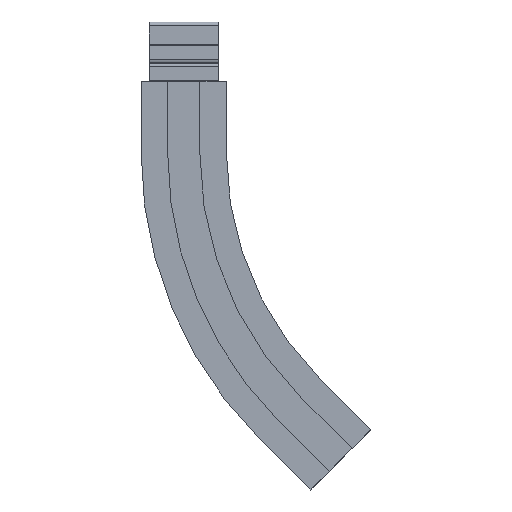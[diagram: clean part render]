
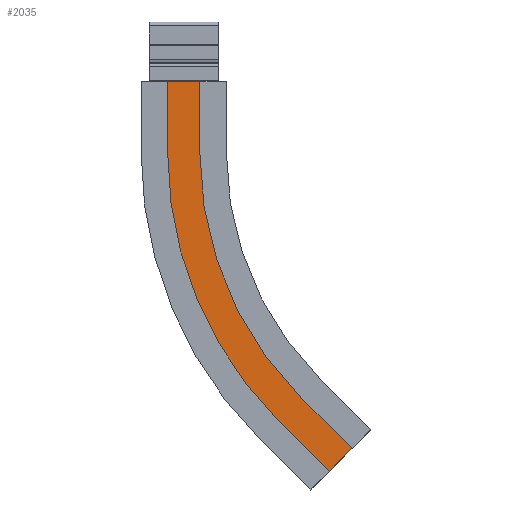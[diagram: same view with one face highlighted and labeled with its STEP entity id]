
A CAD part, front view. The second image highlights one B-rep face of the part: STEP entity #2035.
In plain terms, the highlighted planar face has unit normal (0, -1, 0).
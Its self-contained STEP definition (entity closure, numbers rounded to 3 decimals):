
#582 = VECTOR ( 'NONE', #10221, 1000. ) ;
#583 = LINE ( 'NONE', #10220, #582 ) ;
#592 = CIRCLE ( 'NONE', #13941, 466. ) ;
#598 = VECTOR ( 'NONE', #10201, 1000. ) ;
#599 = LINE ( 'NONE', #10200, #598 ) ;
#759 = VECTOR ( 'NONE', #9994, 1000. ) ;
#760 = LINE ( 'NONE', #9993, #759 ) ;
#761 = VECTOR ( 'NONE', #9992, 1000. ) ;
#762 = LINE ( 'NONE', #9991, #761 ) ;
#763 = VECTOR ( 'NONE', #9990, 1000. ) ;
#764 = CIRCLE ( 'NONE', #13919, 534. ) ;
#765 = LINE ( 'NONE', #9989, #763 ) ;
#766 = VECTOR ( 'NONE', #9985, 1000. ) ;
#767 = LINE ( 'NONE', #9984, #766 ) ;
#1321 = CARTESIAN_POINT ( 'NONE',  ( -12.689, -43.722, -182.56 ) ) ;
#1329 = CARTESIAN_POINT ( 'NONE',  ( 58.022, -43.722, -253.27 ) ) ;
#1342 = CARTESIAN_POINT ( 'NONE',  ( 106.105, -43.722, -205.187 ) ) ;
#1615 = CARTESIAN_POINT ( 'NONE',  ( -101.094, -43.722, 295.035 ) ) ;
#1624 = CARTESIAN_POINT ( 'NONE',  ( -101.094, -43.722, 195.035 ) ) ;
#1626 = CARTESIAN_POINT ( 'NONE',  ( 35.395, -43.722, -134.476 ) ) ;
#1630 = CARTESIAN_POINT ( 'NONE',  ( -169.094, -43.722, 295.035 ) ) ;
#1635 = CARTESIAN_POINT ( 'NONE',  ( -169.094, -43.722, 195.035 ) ) ;
#2035 = ADVANCED_FACE ( 'NONE', ( #6316 ), #4888, .T. ) ;
#4884 = DIRECTION ( 'NONE',  ( -0.707, 0., -0.707 ) ) ;
#4886 = DIRECTION ( 'NONE',  ( 0., -1., 0. ) ) ;
#4887 = CARTESIAN_POINT ( 'NONE',  ( 35.395, -43.722, -134.476 ) ) ;
#4888 = PLANE ( 'NONE',  #14457 ) ;
#6316 = FACE_OUTER_BOUND ( 'NONE', #9075, .T. ) ;
#9075 = EDGE_LOOP ( 'NONE', ( #15055, #15056, #15057, #15058, #15059, #15060, #15061, #15062 ) ) ;
#9984 = CARTESIAN_POINT ( 'NONE',  ( -12.689, -43.722, -182.56 ) ) ;
#9985 = DIRECTION ( 'NONE',  ( 0.707, 0., -0.707 ) ) ;
#9986 = CARTESIAN_POINT ( 'NONE',  ( 364.906, -43.722, 195.035 ) ) ;
#9987 = DIRECTION ( 'NONE',  ( 0., 1., 0. ) ) ;
#9988 = DIRECTION ( 'NONE',  ( -0.707, 0., 0.707 ) ) ;
#9989 = CARTESIAN_POINT ( 'NONE',  ( -101.094, -43.722, 295.035 ) ) ;
#9990 = DIRECTION ( 'NONE',  ( -1., 0., 0. ) ) ;
#9991 = CARTESIAN_POINT ( 'NONE',  ( 106.105, -43.722, -205.187 ) ) ;
#9992 = DIRECTION ( 'NONE',  ( -0.707, 0., -0.707 ) ) ;
#9993 = CARTESIAN_POINT ( 'NONE',  ( 35.395, -43.722, -134.476 ) ) ;
#9994 = DIRECTION ( 'NONE',  ( 0.707, 0., -0.707 ) ) ;
#10200 = CARTESIAN_POINT ( 'NONE',  ( -101.094, -43.722, 195.035 ) ) ;
#10201 = DIRECTION ( 'NONE',  ( 0., 0., 1. ) ) ;
#10206 = CARTESIAN_POINT ( 'NONE',  ( 364.906, -43.722, 195.035 ) ) ;
#10207 = DIRECTION ( 'NONE',  ( 0., 1., 0. ) ) ;
#10208 = DIRECTION ( 'NONE',  ( -0.707, 0., 0.707 ) ) ;
#10220 = CARTESIAN_POINT ( 'NONE',  ( -169.094, -43.722, 195.035 ) ) ;
#10221 = DIRECTION ( 'NONE',  ( 0., 0., 1. ) ) ;
#11637 = VERTEX_POINT ( 'NONE', #1635 ) ;
#11642 = VERTEX_POINT ( 'NONE', #1630 ) ;
#11646 = VERTEX_POINT ( 'NONE', #1626 ) ;
#11648 = VERTEX_POINT ( 'NONE', #1624 ) ;
#11657 = VERTEX_POINT ( 'NONE', #1615 ) ;
#11702 = VERTEX_POINT ( 'NONE', #1342 ) ;
#11706 = VERTEX_POINT ( 'NONE', #1329 ) ;
#11708 = VERTEX_POINT ( 'NONE', #1321 ) ;
#12522 = EDGE_CURVE ( 'NONE', #11708, #11706, #767, .T. ) ;
#12523 = EDGE_CURVE ( 'NONE', #11708, #11637, #764, .T. ) ;
#12524 = EDGE_CURVE ( 'NONE', #11657, #11642, #765, .T. ) ;
#12525 = EDGE_CURVE ( 'NONE', #11702, #11706, #762, .T. ) ;
#12526 = EDGE_CURVE ( 'NONE', #11646, #11702, #760, .T. ) ;
#13919 = AXIS2_PLACEMENT_3D ( 'NONE', #9986, #9987, #9988 ) ;
#13941 = AXIS2_PLACEMENT_3D ( 'NONE', #10206, #10207, #10208 ) ;
#14256 = EDGE_CURVE ( 'NONE', #11648, #11657, #599, .T. ) ;
#14259 = EDGE_CURVE ( 'NONE', #11646, #11648, #592, .T. ) ;
#14265 = EDGE_CURVE ( 'NONE', #11637, #11642, #583, .T. ) ;
#14457 = AXIS2_PLACEMENT_3D ( 'NONE', #4887, #4886, #4884 ) ;
#15055 = ORIENTED_EDGE ( 'NONE', *, *, #12525, .F. ) ;
#15056 = ORIENTED_EDGE ( 'NONE', *, *, #12526, .F. ) ;
#15057 = ORIENTED_EDGE ( 'NONE', *, *, #14259, .T. ) ;
#15058 = ORIENTED_EDGE ( 'NONE', *, *, #14256, .T. ) ;
#15059 = ORIENTED_EDGE ( 'NONE', *, *, #12524, .T. ) ;
#15060 = ORIENTED_EDGE ( 'NONE', *, *, #14265, .F. ) ;
#15061 = ORIENTED_EDGE ( 'NONE', *, *, #12523, .F. ) ;
#15062 = ORIENTED_EDGE ( 'NONE', *, *, #12522, .T. ) ;
